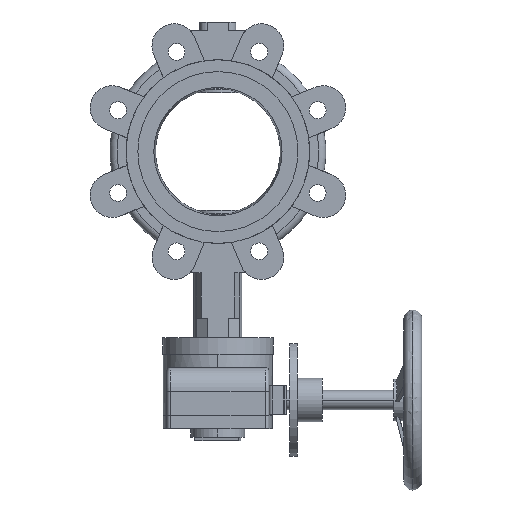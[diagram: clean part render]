
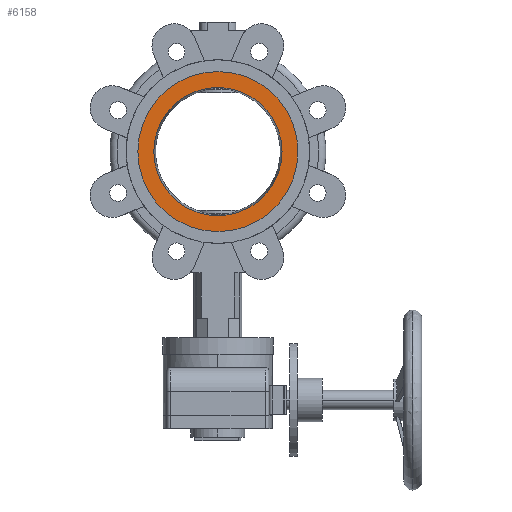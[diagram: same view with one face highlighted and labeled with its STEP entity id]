
A CAD part, front view. The second image highlights one B-rep face of the part: STEP entity #6158.
In plain terms, the highlighted planar face has unit normal (0, -1, 0).
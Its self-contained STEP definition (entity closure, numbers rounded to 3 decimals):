
#92 = DIRECTION ( 'NONE',  ( 0., 0., 1. ) ) ;
#155 = DIRECTION ( 'NONE',  ( 0., 1., 0. ) ) ;
#162 = DIRECTION ( 'NONE',  ( 0., 0., 1. ) ) ;
#316 = ORIENTED_EDGE ( 'NONE', *, *, #3964, .F. ) ;
#1758 = CARTESIAN_POINT ( 'NONE',  ( 0., -27.5, 0. ) ) ;
#2120 = EDGE_CURVE ( 'NONE', #2674, #6602, #7999, .T. ) ;
#2439 = DIRECTION ( 'NONE',  ( 0., 1., 0. ) ) ;
#2481 = AXIS2_PLACEMENT_3D ( 'NONE', #4783, #2439, #3115 ) ;
#2612 = AXIS2_PLACEMENT_3D ( 'NONE', #4331, #6821, #162 ) ;
#2674 = VERTEX_POINT ( 'NONE', #8474 ) ;
#2740 = CARTESIAN_POINT ( 'NONE',  ( 0., -27.5, 66.7 ) ) ;
#2959 = CARTESIAN_POINT ( 'NONE',  ( 0., -27.5, 0. ) ) ;
#3115 = DIRECTION ( 'NONE',  ( 0., 0., 1. ) ) ;
#3934 = EDGE_LOOP ( 'NONE', ( #4193, #316 ) ) ;
#3964 = EDGE_CURVE ( 'NONE', #8820, #8989, #5900, .T. ) ;
#4129 = AXIS2_PLACEMENT_3D ( 'NONE', #1758, #155, #92 ) ;
#4193 = ORIENTED_EDGE ( 'NONE', *, *, #10518, .F. ) ;
#4331 = CARTESIAN_POINT ( 'NONE',  ( 53.444, -27.5, 0. ) ) ;
#4439 = CIRCLE ( 'NONE', #2481, 66.7 ) ;
#4633 = AXIS2_PLACEMENT_3D ( 'NONE', #2959, #6457, #5621 ) ;
#4651 = DIRECTION ( 'NONE',  ( 0., 1., 0. ) ) ;
#4783 = CARTESIAN_POINT ( 'NONE',  ( 0., -27.5, 0. ) ) ;
#5172 = ORIENTED_EDGE ( 'NONE', *, *, #9500, .T. ) ;
#5621 = DIRECTION ( 'NONE',  ( 0., 0., 1. ) ) ;
#5900 = CIRCLE ( 'NONE', #4129, 66.7 ) ;
#6057 = FACE_BOUND ( 'NONE', #10193, .T. ) ;
#6158 = ADVANCED_FACE ( 'NONE', ( #7777, #6057 ), #11006, .F. ) ;
#6457 = DIRECTION ( 'NONE',  ( 0., 1., 0. ) ) ;
#6602 = VERTEX_POINT ( 'NONE', #10922 ) ;
#6821 = DIRECTION ( 'NONE',  ( 0., 1., 0. ) ) ;
#6932 = AXIS2_PLACEMENT_3D ( 'NONE', #8972, #4651, #8039 ) ;
#7531 = ORIENTED_EDGE ( 'NONE', *, *, #2120, .T. ) ;
#7777 = FACE_OUTER_BOUND ( 'NONE', #3934, .T. ) ;
#7999 = CIRCLE ( 'NONE', #4633, 53.444 ) ;
#8039 = DIRECTION ( 'NONE',  ( 0., 0., 1. ) ) ;
#8474 = CARTESIAN_POINT ( 'NONE',  ( 0., -27.5, 53.444 ) ) ;
#8812 = CARTESIAN_POINT ( 'NONE',  ( 0., -27.5, -66.7 ) ) ;
#8820 = VERTEX_POINT ( 'NONE', #8812 ) ;
#8972 = CARTESIAN_POINT ( 'NONE',  ( 0., -27.5, 0. ) ) ;
#8989 = VERTEX_POINT ( 'NONE', #2740 ) ;
#9500 = EDGE_CURVE ( 'NONE', #6602, #2674, #9768, .T. ) ;
#9768 = CIRCLE ( 'NONE', #6932, 53.444 ) ;
#10193 = EDGE_LOOP ( 'NONE', ( #5172, #7531 ) ) ;
#10518 = EDGE_CURVE ( 'NONE', #8989, #8820, #4439, .T. ) ;
#10922 = CARTESIAN_POINT ( 'NONE',  ( 0., -27.5, -53.444 ) ) ;
#11006 = PLANE ( 'NONE',  #2612 ) ;
